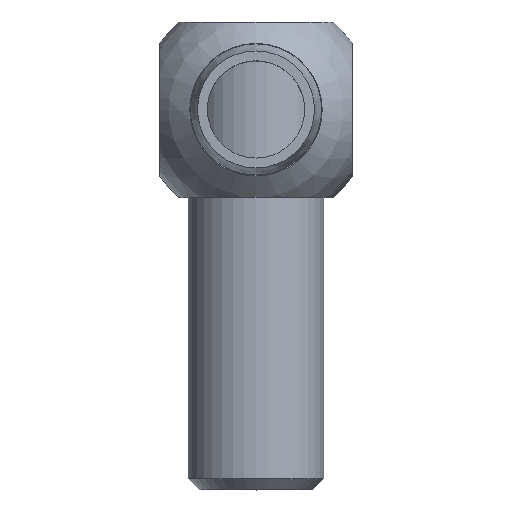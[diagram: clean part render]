
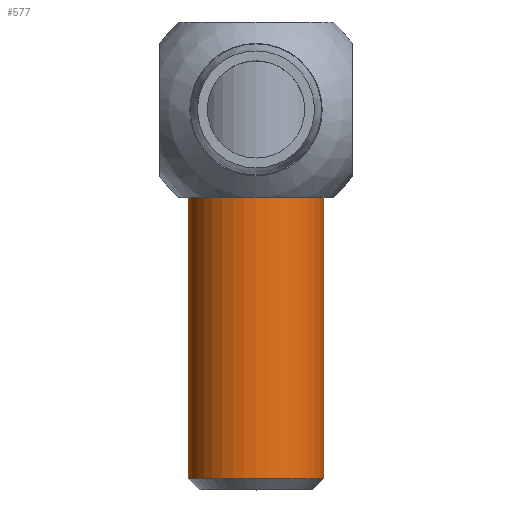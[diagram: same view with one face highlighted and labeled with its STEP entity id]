
A CAD part, top view. The second image highlights one B-rep face of the part: STEP entity #577.
In plain terms, the highlighted cylindrical face has radius 11.048 mm (diameter 22.095 mm), a full revolution.
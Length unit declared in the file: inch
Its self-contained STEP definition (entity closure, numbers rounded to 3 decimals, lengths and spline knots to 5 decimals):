
#56=CYLINDRICAL_SURFACE('',#630,0.43495);
#68=FACE_OUTER_BOUND('',#102,.T.);
#102=EDGE_LOOP('',(#411,#412,#413,#414,#415));
#148=LINE('',#922,#182);
#182=VECTOR('',#723,0.4375);
#216=CIRCLE('',#628,0.43495);
#217=CIRCLE('',#629,0.43495);
#218=CIRCLE('',#631,0.43495);
#263=VERTEX_POINT('',#915);
#264=VERTEX_POINT('',#917);
#265=VERTEX_POINT('',#921);
#325=EDGE_CURVE('',#263,#264,#216,.F.);
#326=EDGE_CURVE('',#264,#263,#217,.F.);
#327=EDGE_CURVE('',#264,#265,#148,.T.);
#328=EDGE_CURVE('',#265,#265,#218,.T.);
#411=ORIENTED_EDGE('',*,*,#326,.F.);
#412=ORIENTED_EDGE('',*,*,#327,.T.);
#413=ORIENTED_EDGE('',*,*,#328,.T.);
#414=ORIENTED_EDGE('',*,*,#327,.F.);
#415=ORIENTED_EDGE('',*,*,#325,.F.);
#577=ADVANCED_FACE('',(#68),#56,.T.);
#628=AXIS2_PLACEMENT_3D('',#918,#717,#718);
#629=AXIS2_PLACEMENT_3D('',#919,#719,#720);
#630=AXIS2_PLACEMENT_3D('',#920,#721,#722);
#631=AXIS2_PLACEMENT_3D('',#923,#724,#725);
#717=DIRECTION('center_axis',(0.,1.,0.));
#718=DIRECTION('ref_axis',(0.,0.,-1.));
#719=DIRECTION('center_axis',(0.,1.,0.));
#720=DIRECTION('ref_axis',(0.,0.,-1.));
#721=DIRECTION('center_axis',(0.,-1.,0.));
#722=DIRECTION('ref_axis',(0.,0.,-1.));
#723=DIRECTION('',(0.,1.,0.));
#724=DIRECTION('center_axis',(0.,-1.,0.));
#725=DIRECTION('ref_axis',(0.,0.,-1.));
#915=CARTESIAN_POINT('',(0.,-1.80255,-0.43495));
#917=CARTESIAN_POINT('',(0.,-1.80255,0.43495));
#918=CARTESIAN_POINT('Origin',(0.,-1.80255,0.));
#919=CARTESIAN_POINT('Origin',(0.,-1.80255,0.));
#920=CARTESIAN_POINT('Origin',(0.,-0.9375,0.));
#921=CARTESIAN_POINT('',(0.,0.,0.43495));
#922=CARTESIAN_POINT('',(0.,-0.9375,0.43495));
#923=CARTESIAN_POINT('Origin',(0.,0.,0.));
